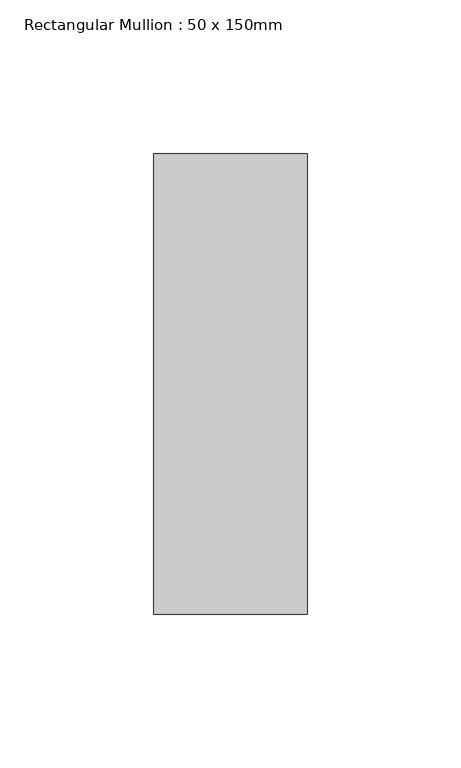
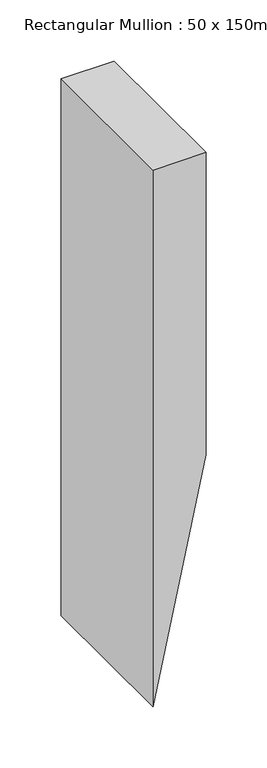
"""IFC4 building model written with IfcOpenShell, lengths in millimetres: member geometry, Rectangular Mullion : 50 x 150mm."""

from ifc_helpers import new_model, si_unit, frame, origin, place, context, project, spatial, polyline, outline, extrude, source, transform, mapped, element, save


def rectangular_mullion_50_x_150mm_58501d06(model_context):
    return source(origin(), model_context, "Body", "SweptSolid", [
        extrude(outline(polyline([(0.0, 25.0), (0.0, -25.0), (-535.0683382, -25.0), (-301.2496228, 25.0), (0.0, 25.0)])), frame((0.0, -75.0, 0.0), z_axis=(0.0, 1.0, 0.0), x_axis=(0.0, 0.0, 1.0)), (0.0, 0.0, 1.0), 150.0),
    ])


if __name__ == "__main__":
    model = new_model("IFC4")
    model_context = context("Model", 3, world=origin())
    ifc_project = project(units=[si_unit("LENGTHUNIT", "METRE", prefix="MILLI")], contexts=[model_context])
    site = spatial("IfcSite", under=ifc_project)
    building = spatial("IfcBuilding", under=site)
    placement = place(None, origin())
    rectangular_mullion_50_x_150mm_shape = rectangular_mullion_50_x_150mm_58501d06(model_context)
    element("IfcMember", 1, ObjectType="Rectangular Mullion : 50 x 150mm", at=placement, inside=building, context=model_context, shape_type="MappedRepresentation", body=[
        mapped(rectangular_mullion_50_x_150mm_shape, transform((0.0, 0.0, 0.0), x_axis=(1.0, 0.0, 0.0), y_axis=(0.0, 1.0, 0.0), z_axis=(0.0, 0.0, 1.0))),
    ])
    save(model, "model.ifc")
